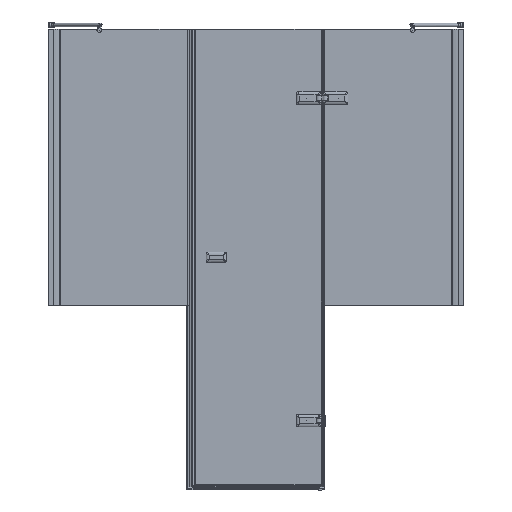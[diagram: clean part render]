
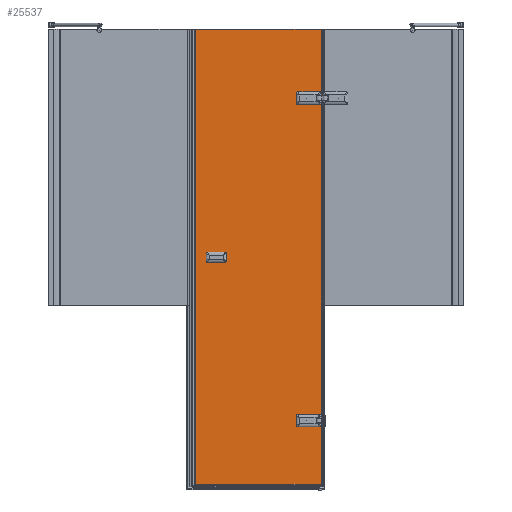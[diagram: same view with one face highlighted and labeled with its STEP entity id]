
A CAD part, front view. The second image highlights one B-rep face of the part: STEP entity #25537.
In plain terms, the highlighted planar face has unit normal (0, -1, 0) as drawn and (0, 1, 0) by its records, which use the part's own axes.
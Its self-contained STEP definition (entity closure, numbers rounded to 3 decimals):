
#1438=LINE($,#37886,#3873);
#1442=LINE($,#37898,#3877);
#1447=LINE($,#37913,#3882);
#1451=LINE($,#37925,#3886);
#1452=LINE($,#37938,#3887);
#1455=LINE($,#37944,#3890);
#1458=LINE($,#37960,#3893);
#1463=LINE($,#37969,#3898);
#1464=LINE($,#37972,#3899);
#1465=LINE($,#37974,#3900);
#1466=LINE($,#37975,#3901);
#1467=LINE($,#37976,#3902);
#3873=VECTOR($,#30031,18.);
#3877=VECTOR($,#30043,32.);
#3882=VECTOR($,#30056,18.);
#3886=VECTOR($,#30068,32.);
#3887=VECTOR($,#30083,32.);
#3890=VECTOR($,#30088,32.);
#3893=VECTOR($,#30105,261.);
#3898=VECTOR($,#30112,281.);
#3899=VECTOR($,#30115,551.);
#3900=VECTOR($,#30116,1980.);
#3901=VECTOR($,#30117,551.);
#3902=VECTOR($,#30118,1362.);
#6290=PLANE($,#27243);
#7194=FACE_BOUND($,#9090,.T.);
#7195=FACE_BOUND($,#9091,.T.);
#7196=FACE_BOUND($,#9092,.T.);
#7197=FACE_BOUND($,#9093,.T.);
#7198=FACE_BOUND($,#9094,.T.);
#9090=EDGE_LOOP($,(#18221));
#9091=EDGE_LOOP($,(#18222));
#9092=EDGE_LOOP($,(#18223,#18224,#18225,#18226,#18227,#18228,#18229,#18230,
#18231,#18232,#18233,#18234,#18235,#18236,#18237,#18238));
#9093=EDGE_LOOP($,(#18239));
#9094=EDGE_LOOP($,(#18240));
#10892=CIRCLE($,#27213,10.);
#10894=CIRCLE($,#27217,10.);
#10896=CIRCLE($,#27221,10.);
#10898=CIRCLE($,#27225,10.);
#10899=CIRCLE($,#27228,5.5);
#10901=CIRCLE($,#27231,5.5);
#10903=CIRCLE($,#27236,8.);
#10905=CIRCLE($,#27239,8.);
#11918=VERTEX_POINT($,#37876);
#11919=VERTEX_POINT($,#37878);
#11921=VERTEX_POINT($,#37884);
#11923=VERTEX_POINT($,#37890);
#11925=VERTEX_POINT($,#37896);
#11928=VERTEX_POINT($,#37903);
#11929=VERTEX_POINT($,#37905);
#11931=VERTEX_POINT($,#37911);
#11933=VERTEX_POINT($,#37917);
#11935=VERTEX_POINT($,#37923);
#11936=VERTEX_POINT($,#37927);
#11938=VERTEX_POINT($,#37932);
#11940=VERTEX_POINT($,#37937);
#11942=VERTEX_POINT($,#37943);
#11944=VERTEX_POINT($,#37949);
#11946=VERTEX_POINT($,#37954);
#11948=VERTEX_POINT($,#37959);
#11951=VERTEX_POINT($,#37967);
#11952=VERTEX_POINT($,#37971);
#11953=VERTEX_POINT($,#37973);
#14432=EDGE_CURVE($,#11918,#11919,#10892,.T.);
#14436=EDGE_CURVE($,#11918,#11921,#1438,.T.);
#14439=EDGE_CURVE($,#11923,#11921,#10894,.T.);
#14442=EDGE_CURVE($,#11923,#11925,#1442,.T.);
#14445=EDGE_CURVE($,#11928,#11929,#10896,.T.);
#14449=EDGE_CURVE($,#11928,#11931,#1447,.T.);
#14452=EDGE_CURVE($,#11933,#11931,#10898,.T.);
#14455=EDGE_CURVE($,#11933,#11935,#1451,.T.);
#14456=EDGE_CURVE($,#11936,#11936,#10899,.T.);
#14458=EDGE_CURVE($,#11938,#11938,#10901,.T.);
#14460=EDGE_CURVE($,#11940,#11919,#1452,.T.);
#14463=EDGE_CURVE($,#11942,#11929,#1455,.T.);
#14466=EDGE_CURVE($,#11944,#11944,#10903,.T.);
#14468=EDGE_CURVE($,#11946,#11946,#10905,.T.);
#14470=EDGE_CURVE($,#11948,#11942,#1458,.T.);
#14475=EDGE_CURVE($,#11925,#11951,#1463,.T.);
#14476=EDGE_CURVE($,#11952,#11951,#1464,.T.);
#14477=EDGE_CURVE($,#11953,#11952,#1465,.T.);
#14478=EDGE_CURVE($,#11953,#11948,#1466,.T.);
#14479=EDGE_CURVE($,#11935,#11940,#1467,.T.);
#18221=ORIENTED_EDGE($,*,*,#14456,.T.);
#18222=ORIENTED_EDGE($,*,*,#14458,.T.);
#18223=ORIENTED_EDGE($,*,*,#14460,.T.);
#18224=ORIENTED_EDGE($,*,*,#14432,.F.);
#18225=ORIENTED_EDGE($,*,*,#14436,.T.);
#18226=ORIENTED_EDGE($,*,*,#14439,.F.);
#18227=ORIENTED_EDGE($,*,*,#14442,.T.);
#18228=ORIENTED_EDGE($,*,*,#14475,.T.);
#18229=ORIENTED_EDGE($,*,*,#14476,.F.);
#18230=ORIENTED_EDGE($,*,*,#14477,.F.);
#18231=ORIENTED_EDGE($,*,*,#14478,.T.);
#18232=ORIENTED_EDGE($,*,*,#14470,.T.);
#18233=ORIENTED_EDGE($,*,*,#14463,.T.);
#18234=ORIENTED_EDGE($,*,*,#14445,.F.);
#18235=ORIENTED_EDGE($,*,*,#14449,.T.);
#18236=ORIENTED_EDGE($,*,*,#14452,.F.);
#18237=ORIENTED_EDGE($,*,*,#14455,.T.);
#18238=ORIENTED_EDGE($,*,*,#14479,.T.);
#18239=ORIENTED_EDGE($,*,*,#14468,.T.);
#18240=ORIENTED_EDGE($,*,*,#14466,.T.);
#25537=ADVANCED_FACE($,(#7194,#7195,#7196,#7197,#7198),#6290,.T.);
#27213=AXIS2_PLACEMENT_3D($,#37879,#30024,#30025);
#27217=AXIS2_PLACEMENT_3D($,#37892,#30037,#30038);
#27221=AXIS2_PLACEMENT_3D($,#37906,#30049,#30050);
#27225=AXIS2_PLACEMENT_3D($,#37919,#30062,#30063);
#27228=AXIS2_PLACEMENT_3D($,#37928,#30071,#30072);
#27231=AXIS2_PLACEMENT_3D($,#37933,#30077,#30078);
#27236=AXIS2_PLACEMENT_3D($,#37950,#30093,#30094);
#27239=AXIS2_PLACEMENT_3D($,#37955,#30099,#30100);
#27243=AXIS2_PLACEMENT_3D($,#37970,#30113,#30114);
#30024=DIRECTION('center_axis',(0.,1.,0.));
#30025=DIRECTION('ref_axis',(0.707,0.,-0.707));
#30031=DIRECTION($,(0.,0.,1.));
#30037=DIRECTION('center_axis',(0.,1.,0.));
#30038=DIRECTION('ref_axis',(0.707,0.,0.707));
#30043=DIRECTION($,(-1.,0.,0.));
#30049=DIRECTION('center_axis',(0.,1.,0.));
#30050=DIRECTION('ref_axis',(0.707,0.,-0.707));
#30056=DIRECTION($,(0.,0.,1.));
#30062=DIRECTION('center_axis',(0.,1.,0.));
#30063=DIRECTION('ref_axis',(0.707,0.,0.707));
#30068=DIRECTION($,(-1.,0.,0.));
#30071=DIRECTION('center_axis',(0.,-1.,0.));
#30072=DIRECTION('ref_axis',(-1.,0.,0.));
#30077=DIRECTION('center_axis',(0.,-1.,0.));
#30078=DIRECTION('ref_axis',(-1.,0.,0.));
#30083=DIRECTION($,(1.,0.,0.));
#30088=DIRECTION($,(1.,0.,0.));
#30093=DIRECTION('center_axis',(0.,-1.,0.));
#30094=DIRECTION('ref_axis',(-1.,0.,0.));
#30099=DIRECTION('center_axis',(0.,-1.,0.));
#30100=DIRECTION('ref_axis',(-1.,0.,0.));
#30105=DIRECTION($,(0.,0.,1.));
#30112=DIRECTION($,(0.,0.,1.));
#30113=DIRECTION('center_axis',(0.,1.,0.));
#30114=DIRECTION('ref_axis',(-1.,0.,0.));
#30115=DIRECTION($,(-1.,0.,0.));
#30116=DIRECTION($,(0.,0.,1.));
#30117=DIRECTION($,(-1.,0.,0.));
#30118=DIRECTION($,(0.,0.,1.));
#37876=CARTESIAN_POINT('',(42.,6.,1671.));
#37878=CARTESIAN_POINT('',(32.,6.,1661.));
#37879=CARTESIAN_POINT('Origin',(32.,6.,1671.));
#37884=CARTESIAN_POINT('',(42.,6.,1689.));
#37886=CARTESIAN_POINT($,(42.,6.,849.5));
#37890=CARTESIAN_POINT('',(32.,6.,1699.));
#37892=CARTESIAN_POINT('Origin',(32.,6.,1689.));
#37896=CARTESIAN_POINT('',(0.,6.,1699.));
#37898=CARTESIAN_POINT($,(275.5,6.,1699.));
#37903=CARTESIAN_POINT('',(42.,6.,271.));
#37905=CARTESIAN_POINT('',(32.,6.,261.));
#37906=CARTESIAN_POINT('Origin',(32.,6.,271.));
#37911=CARTESIAN_POINT('',(42.,6.,289.));
#37913=CARTESIAN_POINT($,(42.,6.,149.5));
#37917=CARTESIAN_POINT('',(32.,6.,299.));
#37919=CARTESIAN_POINT('Origin',(32.,6.,289.));
#37923=CARTESIAN_POINT('',(0.,6.,299.));
#37925=CARTESIAN_POINT($,(275.5,6.,299.));
#37927=CARTESIAN_POINT('',(486.5,6.,976.));
#37928=CARTESIAN_POINT('Origin',(481.,6.,976.));
#37932=CARTESIAN_POINT('',(486.5,6.,1004.));
#37933=CARTESIAN_POINT('Origin',(481.,6.,1004.));
#37937=CARTESIAN_POINT('',(0.,6.,1661.));
#37938=CARTESIAN_POINT($,(296.5,6.,1661.));
#37943=CARTESIAN_POINT('',(0.,6.,261.));
#37944=CARTESIAN_POINT($,(296.5,6.,261.));
#37949=CARTESIAN_POINT('',(73.,6.,1680.));
#37950=CARTESIAN_POINT('Origin',(65.,6.,1680.));
#37954=CARTESIAN_POINT('',(73.,6.,280.));
#37955=CARTESIAN_POINT('Origin',(65.,6.,280.));
#37959=CARTESIAN_POINT('',(0.,6.,0.));
#37960=CARTESIAN_POINT($,(0.,6.,0.));
#37967=CARTESIAN_POINT('',(0.,6.,1980.));
#37969=CARTESIAN_POINT($,(0.,6.,0.));
#37970=CARTESIAN_POINT('Origin',(551.,6.,0.));
#37971=CARTESIAN_POINT('',(551.,6.,1980.));
#37972=CARTESIAN_POINT($,(551.,6.,1980.));
#37973=CARTESIAN_POINT('',(551.,6.,0.));
#37974=CARTESIAN_POINT($,(551.,6.,0.));
#37975=CARTESIAN_POINT($,(551.,6.,0.));
#37976=CARTESIAN_POINT($,(0.,6.,0.));
